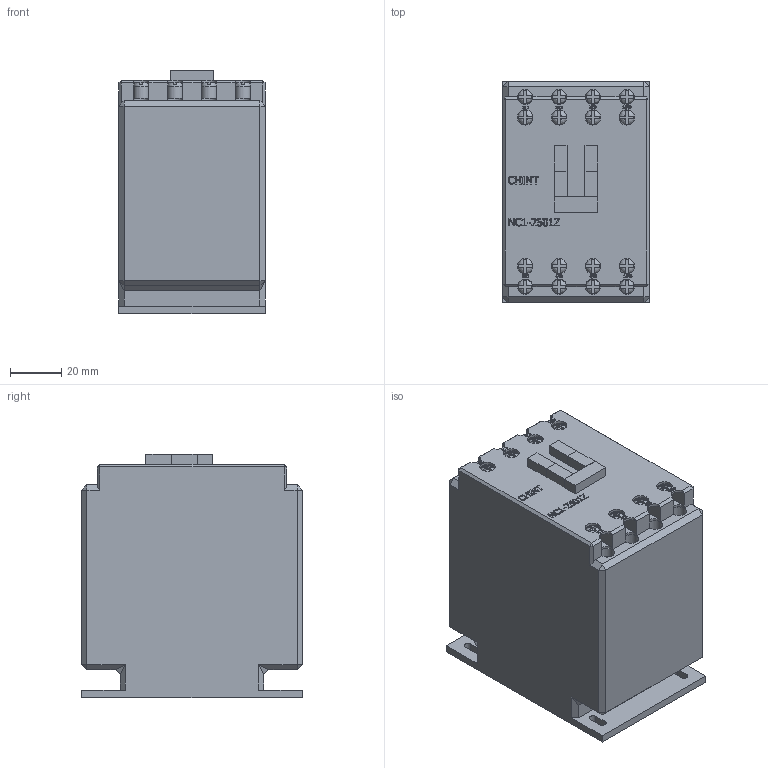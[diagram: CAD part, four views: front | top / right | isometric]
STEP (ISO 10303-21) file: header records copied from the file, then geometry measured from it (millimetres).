
FILE_DESCRIPTION(/* description */ (''),/* implementation_level */ '2;1');
FILE_NAME(/* name */ 'D:\CHINT2\NC1\NC1-2501Z 230В 50.stp',/* time_stamp */ '2017-11-12T20:19:30+03:00',/* author */ ('RSagdiev'),/* organization */ (''),/* preprocessor_version */ 'ST-DEVELOPER v16.5',/* originating_system */ 'Autodesk Inventor 2017',/* authorisation */ '');
FILE_SCHEMA (('AUTOMOTIVE_DESIGN { 1 0 10303 214 3 1 1 }'));
Length unit declared in the file: millimetre
Products named in the file (1): NC1-2501 230В 50
Bounding box: 57 x 86 x 95 mm (x, y, z)
Volume: 422464.2 mm3; surface area: 43705.6 mm2
Topology: 19 solids, 19 shells, 1073 faces, 2825 edges, 1846 vertices
Faces by surface type: plane 784, bspline 241, cylinder 48
Full cylindrical faces by diameter (mm): 5.8 x8, 6 x16
Entity records: 35554 total; most frequent: CARTESIAN_POINT 10668, ORIENTED_EDGE 5602, DIRECTION 4173, EDGE_CURVE 2801, LINE 1919, VECTOR 1919, VERTEX_POINT 1846, EDGE_LOOP 1177
